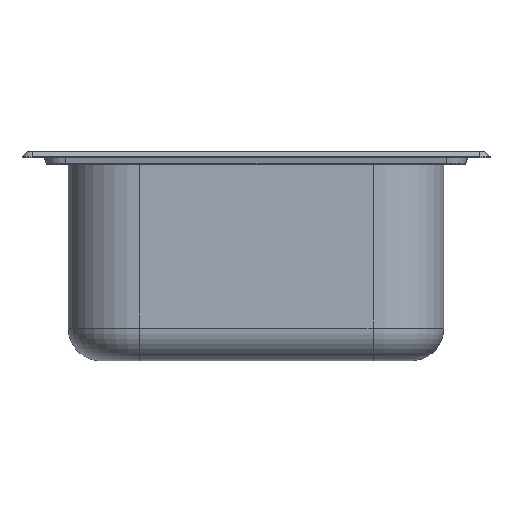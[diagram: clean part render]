
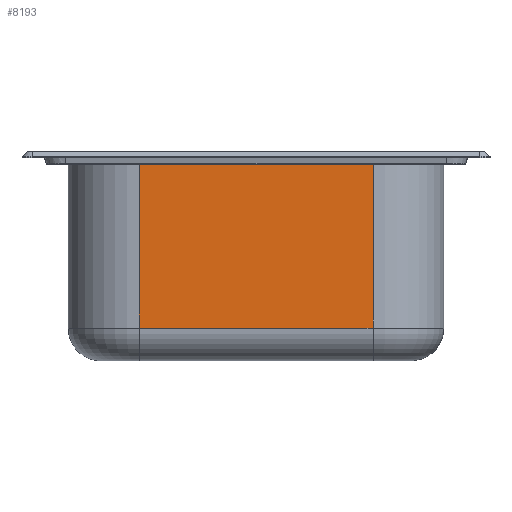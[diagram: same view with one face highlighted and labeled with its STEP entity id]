
A CAD part, left-side view. The second image highlights one B-rep face of the part: STEP entity #8193.
In plain terms, the highlighted planar face has unit normal (-1, 0, 0).
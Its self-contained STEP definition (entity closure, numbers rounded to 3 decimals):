
#8081=CARTESIAN_POINT('Vertex',(-375.699,-125.002,6.04)) ;
#8084=CARTESIAN_POINT('Line Origine',(-375.699,-125.015,-98.96)) ;
#8088=CARTESIAN_POINT('Vertex',(-375.699,-125.023,-168.96)) ;
#8163=CARTESIAN_POINT('Axis2P3D Location',(-375.699,-125.002,6.04)) ;
#8168=CARTESIAN_POINT('Line Origine',(-375.7,-0.002,6.024)) ;
#8172=CARTESIAN_POINT('Vertex',(-375.701,124.998,6.009)) ;
#8175=CARTESIAN_POINT('Line Origine',(-375.701,124.987,-81.491)) ;
#8179=CARTESIAN_POINT('Vertex',(-375.701,124.977,-168.991)) ;
#8182=CARTESIAN_POINT('Line Origine',(-375.7,-0.023,-168.976)) ;
#8085=DIRECTION('Vector Direction',(0.,0.,1.)) ;
#8164=DIRECTION('Axis2P3D Direction',(-1.,0.,0.)) ;
#8165=DIRECTION('Axis2P3D XDirection',(0.,1.,0.)) ;
#8169=DIRECTION('Vector Direction',(0.,1.,0.)) ;
#8176=DIRECTION('Vector Direction',(0.,0.,-1.)) ;
#8183=DIRECTION('Vector Direction',(0.,1.,0.)) ;
#8166=AXIS2_PLACEMENT_3D('Plane Axis2P3D',#8163,#8164,#8165) ;
#8188=ORIENTED_EDGE('',*,*,#8090,.F.) ;
#8189=ORIENTED_EDGE('',*,*,#8174,.F.) ;
#8190=ORIENTED_EDGE('',*,*,#8181,.T.) ;
#8191=ORIENTED_EDGE('',*,*,#8186,.T.) ;
#8086=VECTOR('Line Direction',#8085,1.) ;
#8170=VECTOR('Line Direction',#8169,1.) ;
#8177=VECTOR('Line Direction',#8176,1.) ;
#8184=VECTOR('Line Direction',#8183,1.) ;
#8193=ADVANCED_FACE('Vasca-45',(#8192),#8167,.T.) ;
#8090=EDGE_CURVE('',#8082,#8089,#8087,.F.) ;
#8174=EDGE_CURVE('',#8173,#8082,#8171,.F.) ;
#8181=EDGE_CURVE('',#8173,#8180,#8178,.T.) ;
#8186=EDGE_CURVE('',#8180,#8089,#8185,.F.) ;
#8187=EDGE_LOOP('',(#8188,#8189,#8190,#8191)) ;
#8192=FACE_OUTER_BOUND('',#8187,.T.) ;
#8087=LINE('Line',#8084,#8086) ;
#8171=LINE('Line',#8168,#8170) ;
#8178=LINE('Line',#8175,#8177) ;
#8185=LINE('Line',#8182,#8184) ;
#8167=PLANE('',#8166) ;
#8082=VERTEX_POINT('',#8081) ;
#8089=VERTEX_POINT('',#8088) ;
#8173=VERTEX_POINT('',#8172) ;
#8180=VERTEX_POINT('',#8179) ;
